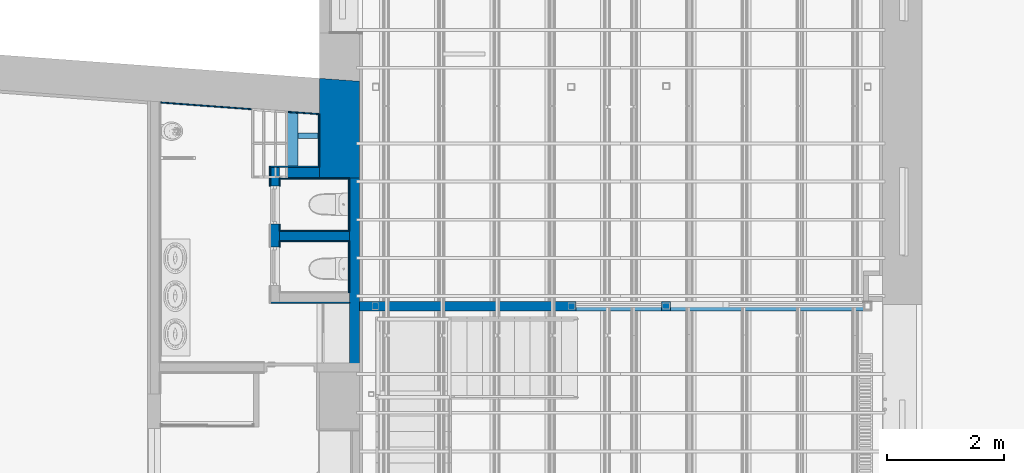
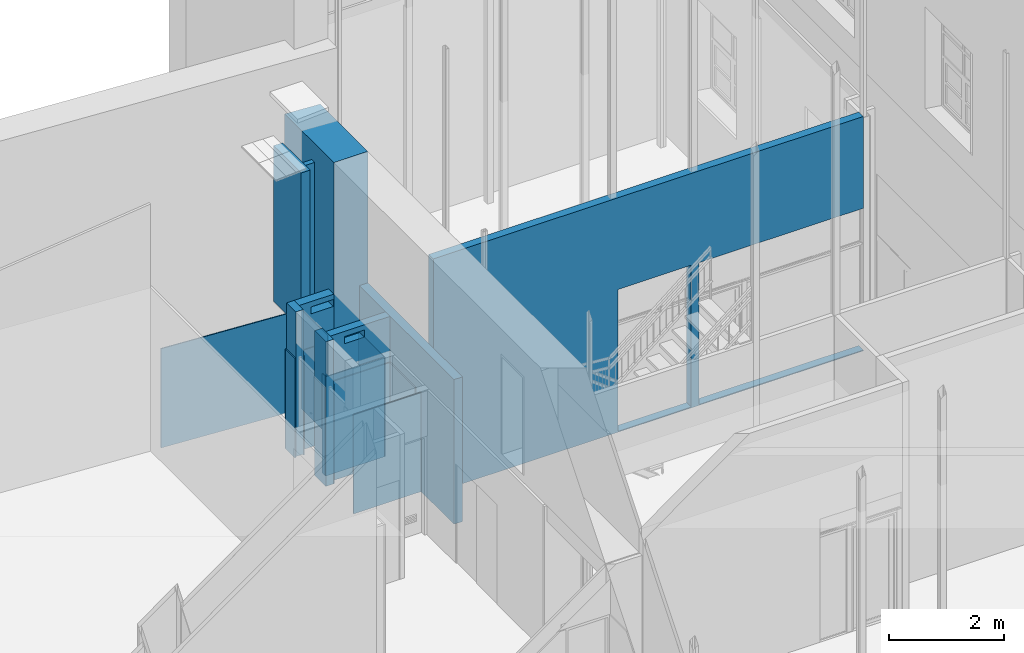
# One storey, part 39 of 75: 22 walls, 4 openings.
"""IFC2X3 building model written with IfcOpenShell, lengths in metres."""

from ifc_helpers import new_model, entity, si_unit, converted_unit, derived_unit, direction, frame, frame_2d, origin, place, context, subcontext, project, spatial, polyline, rectangle, outline, extrude, material, layer, layer_set, layer_usage, type_object, element, save


model = new_model("IFC2X3")

# Units and contexts
model_context = context("Model", 3, precision=1e-05, world=origin(), true_north=direction((6.12303176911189e-17, 1.0)))
body_context = subcontext(model_context, "Body", "Model", "MODEL_VIEW")
ifc_project = project(units=[si_unit("LENGTHUNIT", "METRE"), si_unit("AREAUNIT", "SQUARE_METRE"), si_unit("VOLUMEUNIT", "CUBIC_METRE"), converted_unit("PLANEANGLEUNIT", "DEGREE", entity("IfcRatioMeasure", 0.0174532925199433), si_unit("PLANEANGLEUNIT", "RADIAN"), dimensions=[0, 0, 0, 0, 0, 0, 0]), si_unit("MASSUNIT", "GRAM", prefix="KILO"), derived_unit("MASSDENSITYUNIT", [(si_unit("MASSUNIT", "GRAM", prefix="KILO"), 1), (si_unit("LENGTHUNIT", "METRE"), -3)]), derived_unit("MOMENTOFINERTIAUNIT", [(si_unit("LENGTHUNIT", "METRE"), 4)]), si_unit("TIMEUNIT", "SECOND"), si_unit("FREQUENCYUNIT", "HERTZ"), si_unit("THERMODYNAMICTEMPERATUREUNIT", "DEGREE_CELSIUS"), derived_unit("THERMALTRANSMITTANCEUNIT", [(si_unit("MASSUNIT", "GRAM", prefix="KILO"), 1), (si_unit("THERMODYNAMICTEMPERATUREUNIT", "KELVIN"), -1), (si_unit("TIMEUNIT", "SECOND"), -3)]), derived_unit("VOLUMETRICFLOWRATEUNIT", [(si_unit("LENGTHUNIT", "METRE"), 3), (si_unit("TIMEUNIT", "SECOND"), -1)]), si_unit("ELECTRICCURRENTUNIT", "AMPERE"), si_unit("ELECTRICVOLTAGEUNIT", "VOLT"), si_unit("POWERUNIT", "WATT"), si_unit("FORCEUNIT", "NEWTON", prefix="KILO"), si_unit("ILLUMINANCEUNIT", "LUX"), si_unit("LUMINOUSFLUXUNIT", "LUMEN"), si_unit("LUMINOUSINTENSITYUNIT", "CANDELA"), derived_unit("USERDEFINED", [(si_unit("MASSUNIT", "GRAM", prefix="KILO"), -1), (si_unit("LENGTHUNIT", "METRE"), -2), (si_unit("TIMEUNIT", "SECOND"), 3), (si_unit("LUMINOUSFLUXUNIT", "LUMEN"), 1)]), derived_unit("LINEARVELOCITYUNIT", [(si_unit("LENGTHUNIT", "METRE"), 1), (si_unit("TIMEUNIT", "SECOND"), -1)]), si_unit("PRESSUREUNIT", "PASCAL"), derived_unit("USERDEFINED", [(si_unit("LENGTHUNIT", "METRE"), -2), (si_unit("MASSUNIT", "GRAM", prefix="KILO"), 1), (si_unit("TIMEUNIT", "SECOND"), -2)]), derived_unit("LINEARFORCEUNIT", [(si_unit("MASSUNIT", "GRAM", prefix="KILO"), 1), (si_unit("LENGTHUNIT", "METRE"), 1), (si_unit("TIMEUNIT", "SECOND"), -2), (si_unit("LENGTHUNIT", "METRE"), -1)]), derived_unit("PLANARFORCEUNIT", [(si_unit("MASSUNIT", "GRAM", prefix="KILO"), 1), (si_unit("LENGTHUNIT", "METRE"), 1), (si_unit("TIMEUNIT", "SECOND"), -2), (si_unit("LENGTHUNIT", "METRE"), -2)])], contexts=[model_context])

# Site, building, storey
site_placement = place(None, origin())
site = spatial("IfcSite", under=ifc_project, at=site_placement, Name="Superficie", CompositionType="ELEMENT")
building_placement = place(site_placement, origin())
building = spatial("IfcBuilding", under=site, at=building_placement, Name="Telegestiones", CompositionType="ELEMENT")
storey_placement = place(building_placement, origin())
storey = spatial("IfcBuildingStorey", under=building, at=storey_placement, Name="Nivel 0_NPT", CompositionType="ELEMENT", Elevation=0.0)

# Walls
ifc_material_1 = material(Name="Muro por defecto")
ifc_layer_1 = layer(ifc_material_1, 0.15)
ifc_layer_set_1 = layer_set([ifc_layer_1], Name="Muro básico:ARQ-MU-IN-15-Gen")
ifc_layer_usage_1 = layer_usage(ifc_layer_set_1, "AXIS2", "POSITIVE", -0.075)
wall_type_1 = type_object("IfcWallType", Name="Muro básico:ARQ-MU-IN-15-Gen", PredefinedType="STANDARD", material=ifc_layer_set_1)
wall_1_placement = place(storey_placement, frame((4.58981262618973, 8.48360722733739, 0.0), z_axis=(0.0, 0.0, 1.0), x_axis=(0.0, 1.0, 0.0)))
element("IfcWallStandardCase", 1, at=wall_1_placement, inside=storey, type_object=wall_type_1, material=ifc_layer_usage_1, Name="Muro básico:ARQ-MU-IN-15-Gen", ObjectType="Muro básico:ARQ-MU-IN-15-Gen", context=body_context, shape_type="SweptSolid", body=[
    extrude(rectangle(XDim=0.319999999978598, YDim=0.149999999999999, at=frame_2d((0.159999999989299, 1.38777878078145e-17), x_axis=(-1.0, 0.0))), origin(), (0.0, 0.0, 1.0), 3.06),
])
ifc_layer_usage_2 = layer_usage(ifc_layer_set_1, "AXIS2", "POSITIVE", -0.075)
wall_2_placement = place(storey_placement, frame((4.58995224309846, 7.44324357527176, 0.0), z_axis=(0.0, 0.0, 1.0), x_axis=(0.0, 1.0, 0.0)))
element("IfcWallStandardCase", 2, at=wall_2_placement, inside=storey, type_object=wall_type_1, material=ifc_layer_usage_2, Name="Muro básico:ARQ-MU-IN-15-Gen", ObjectType="Muro básico:ARQ-MU-IN-15-Gen", context=body_context, shape_type="SweptSolid", body=[
    extrude(rectangle(XDim=0.390363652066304, YDim=0.149999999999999, at=frame_2d((0.195181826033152, 0.0), x_axis=(-1.0, 0.0))), origin(), (0.0, 0.0, 1.0), 3.06),
])
ifc_layer_2 = layer(ifc_material_1, 0.17)
ifc_layer_set_2 = layer_set([ifc_layer_2], Name="Muro básico:ARQ-MU-IN-17-Gen")
ifc_layer_usage_3 = layer_usage(ifc_layer_set_2, "AXIS2", "POSITIVE", -0.085)
wall_type_2 = type_object("IfcWallType", Name="Muro básico:ARQ-MU-IN-17-Gen", PredefinedType="STANDARD", material=ifc_layer_set_2)
wall_3_placement = place(storey_placement, frame((5.9492897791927, 8.62360722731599, 0.0), z_axis=(0.0, 0.0, 1.0), x_axis=(0.0, -1.0, 0.0)))
element("IfcWallStandardCase", 3, at=wall_3_placement, inside=storey, type_object=wall_type_2, material=ifc_layer_usage_3, Name="Muro básico:ARQ-MU-IN-17-Gen", ObjectType="Muro básico:ARQ-MU-IN-17-Gen", context=body_context, shape_type="SweptSolid", body=[
    extrude(rectangle(XDim=3.28, YDim=0.17, at=frame_2d((1.64, -1.11022302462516e-16), x_axis=(-1.0, 0.0))), origin(), (0.0, 0.0, 1.0), 3.06),
])
ifc_layer_3 = layer(ifc_material_1, 0.68)
ifc_layer_set_3 = layer_set([ifc_layer_3], Name="Muro básico:ARQ-MU-IN-68-Gen")
ifc_layer_usage_4 = layer_usage(ifc_layer_set_3, "AXIS2", "NEGATIVE", 0.34)
wall_type_3 = type_object("IfcWallType", Name="Muro básico:ARQ-MU-IN-68-Gen", PredefinedType="STANDARD", material=ifc_layer_set_3)
wall_4_placement = place(storey_placement, frame((5.6942897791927, 8.62360722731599, -0.0199999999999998), z_axis=(0.0, 0.0, 1.0), x_axis=(0.0, 1.0, 0.0)))
element("IfcWallStandardCase", 4, at=wall_4_placement, inside=storey, type_object=wall_type_3, material=ifc_layer_usage_4, Name="Muro básico:ARQ-MU-IN-68-Gen", ObjectType="Muro básico:ARQ-MU-IN-68-Gen", context=body_context, shape_type="SweptSolid", body=[
    extrude(outline(polyline([(1.65143086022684, -0.340000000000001), (1.70121043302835, 0.339999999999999), (1.09960487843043, 0.339999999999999), (0.0, 0.34), (0.0, -0.340000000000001), (1.04982530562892, -0.340000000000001), (1.65143086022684, -0.340000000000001)])), origin(), (0.0, 0.0, 1.0), 5.86),
])

# Wall, opening
ifc_layer_4 = layer(ifc_material_1, 0.18)
ifc_layer_set_4 = layer_set([ifc_layer_4], Name="Muro básico:ARQ-MU-IN-18-Gen")
ifc_layer_usage_5 = layer_usage(ifc_layer_set_4, "AXIS2", "POSITIVE", -0.09)
wall_type_4 = type_object("IfcWallType", Name="Muro básico:ARQ-MU-IN-18-Gen", PredefinedType="STANDARD", material=ifc_layer_set_4)
wall_5_placement = place(storey_placement, frame((5.3542897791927, 8.71360722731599, 0.0), z_axis=(0.0, 0.0, 1.0), x_axis=(-1.0, 0.0, 0.0)))
wall_5 = element("IfcWallStandardCase", 5, at=wall_5_placement, inside=storey, type_object=wall_type_4, material=ifc_layer_usage_5, Name="Muro básico:ARQ-MU-IN-18-Gen", ObjectType="Muro básico:ARQ-MU-IN-18-Gen", context=body_context, shape_type="SweptSolid", body=[
    extrude(rectangle(XDim=0.689477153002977, YDim=0.18, at=frame_2d((0.344738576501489, 0.0), x_axis=(-1.0, 0.0))), origin(), (0.0, 0.0, 1.0), 3.06),
])
opening_1_placement = place(wall_5_placement, origin())
element("IfcOpeningElement", 6, at=opening_1_placement, cuts=wall_5, Name="Muro básico:ARQ-MU-IN-18-Gen", ObjectType="Opening", context=body_context, shape_type="SweptSolid", body=[
    extrude(rectangle(XDim=0.15, YDim=0.450000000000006, at=frame_2d((0.0, 2.70616862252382e-16), x_axis=(0.0, 1.0))), frame((0.234999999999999, 0.0900000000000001, 2.875), z_axis=(0.0, -1.0, 0.0), x_axis=(-1.0, 0.0, 0.0)), (0.0, 0.0, 1.0), 0.18),
])

# Wall
ifc_layer_usage_6 = layer_usage(ifc_layer_set_4, "AXIS2", "NEGATIVE", 0.09)
wall_6_placement = place(storey_placement, frame((4.8942897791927, 8.80360722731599, 2.412), z_axis=(0.0, 0.0, 1.0), x_axis=(0.0, 1.0, 0.0)))
element("IfcWallStandardCase", 7, at=wall_6_placement, inside=storey, type_object=wall_type_4, material=ifc_layer_usage_6, Name="Muro básico:ARQ-MU-IN-18-Gen", ObjectType="Muro básico:ARQ-MU-IN-18-Gen", context=body_context, shape_type="SweptSolid", body=[
    extrude(outline(polyline([(0.946690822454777, -0.0900000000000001), (0.959867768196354, 0.0899999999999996), (0.0, 0.0899999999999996), (0.0, -0.0900000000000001), (0.490000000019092, -0.0900000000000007), (0.590000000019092, -0.0900000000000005), (0.946690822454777, -0.0900000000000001)])), origin(), (0.0, 0.0, 1.0), 3.2926831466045),
])

# Wall, opening
ifc_layer_5 = layer(ifc_material_1, 0.16)
ifc_layer_set_5 = layer_set([ifc_layer_5], Name="Muro básico:ARQ-MU-IN-16-Gen")
ifc_layer_usage_7 = layer_usage(ifc_layer_set_5, "AXIS2", "POSITIVE", -0.08)
wall_type_5 = type_object("IfcWallType", Name="Muro básico:ARQ-MU-IN-16-Gen", PredefinedType="STANDARD", material=ifc_layer_set_5)
wall_7_placement = place(storey_placement, frame((5.8642897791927, 7.63429920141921, 0.0), z_axis=(0.0, 0.0, 1.0), x_axis=(-1.0, 0.0, 0.0)))
wall_7 = element("IfcWallStandardCase", 8, at=wall_7_placement, inside=storey, type_object=wall_type_5, material=ifc_layer_usage_7, Name="Muro básico:ARQ-MU-IN-16-Gen", ObjectType="Muro básico:ARQ-MU-IN-16-Gen", context=body_context, shape_type="SweptSolid", body=[
    extrude(rectangle(XDim=1.19933753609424, YDim=0.16, at=frame_2d((0.59966876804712, -1.38777878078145e-16), x_axis=(-1.0, 0.0))), origin(), (0.0, 0.0, 1.0), 3.06),
])
opening_2_placement = place(wall_7_placement, origin())
element("IfcOpeningElement", 9, at=opening_2_placement, cuts=wall_7, Name="Muro básico:ARQ-MU-IN-16-Gen", ObjectType="Opening", context=body_context, shape_type="SweptSolid", body=[
    extrude(rectangle(XDim=0.15, YDim=0.392999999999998, at=frame_2d((-5.41233724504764e-16, 2.70616862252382e-16), x_axis=(0.0, 1.0))), frame((0.713499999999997, 0.0799999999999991, 2.875), z_axis=(0.0, -1.0, 0.0), x_axis=(-1.0, 0.0, 0.0)), (0.0, 0.0, 1.0), 0.16),
])

# Wall, openings
ifc_material_2 = material(Name="Placa yeso entera")
ifc_layer_6 = layer(ifc_material_2, 0.015)
ifc_layer_7 = layer(ifc_material_2, 0.015)
ifc_material_3 = material(Name="Estructura de Hierro Galvanizado")
ifc_layer_8 = layer(ifc_material_3, 0.1)
ifc_layer_9 = layer(ifc_material_2, 0.015)
ifc_layer_10 = layer(ifc_material_2, 0.015)
ifc_layer_set_6 = layer_set([ifc_layer_6, ifc_layer_7, ifc_layer_8, ifc_layer_9, ifc_layer_10], Name="Muro básico:ARQ-MU-IN-16-Ye-T1")
ifc_layer_usage_8 = layer_usage(ifc_layer_set_6, "AXIS2", "NEGATIVE", 0.08)
wall_type_6 = type_object("IfcWallType", Name="Muro básico:ARQ-MU-IN-16-Ye-T1", PredefinedType="STANDARD", material=ifc_layer_set_6)
wall_8_placement = place(storey_placement, frame((6.0342897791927, 6.43560722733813, -0.0199999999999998)))
wall_8 = element("IfcWallStandardCase", 10, at=wall_8_placement, inside=storey, type_object=wall_type_6, material=ifc_layer_usage_8, Name="Muro básico:ARQ-MU-IN-16-Ye-T1", ObjectType="Muro básico:ARQ-MU-IN-16-Ye-T1", context=body_context, shape_type="SweptSolid", body=[
    extrude(rectangle(XDim=8.60652284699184, YDim=0.16, at=frame_2d((4.30326142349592, 1.66533453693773e-16), x_axis=(-1.0, 0.0))), origin(), (0.0, 0.0, 1.0), 4.96),
])
opening_3_placement = place(wall_8_placement, origin())
element("IfcOpeningElement", 11, at=opening_3_placement, cuts=wall_8, Name="Muro básico:ARQ-MU-IN-16-Ye-T1", ObjectType="Opening", context=body_context, shape_type="SweptSolid", body=[
    extrude(rectangle(XDim=3.0, YDim=1.46399960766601, at=frame_2d((-5.55111512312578e-16, 0.0), x_axis=(0.0, 1.0))), frame((4.42952288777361, -0.2324, 1.52), z_axis=(0.0, 1.0, 0.0), x_axis=(-1.0, 0.0, 0.0)), (0.0, 0.0, 1.0), 0.4648),
])
opening_4_placement = place(wall_8_placement, origin())
element("IfcOpeningElement", 12, at=opening_4_placement, cuts=wall_8, Name="Muro básico:ARQ-MU-IN-16-Ye-T1", ObjectType="Opening", context=body_context, shape_type="SweptSolid", body=[
    extrude(rectangle(XDim=3.0, YDim=3.29399977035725, at=frame_2d((0.0, -1.11022302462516e-15), x_axis=(1.0, 0.0))), frame((6.95952296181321, -0.2324, 1.52), z_axis=(0.0, 1.0, 0.0), x_axis=(0.0, 0.0, 1.0)), (0.0, 0.0, 1.0), 0.4648),
])

# Walls
ifc_material_4 = material(Name="Hormigón, Moldeado in situ, gris")
ifc_layer_11 = layer(ifc_material_4, 0.01)
ifc_material_5 = material(Name="Ceramica - Ferrum - Blanco")
ifc_layer_12 = layer(ifc_material_5, 0.01)
ifc_layer_set_7 = layer_set([ifc_layer_11, ifc_layer_12], Name="Muro básico:ARQ-RE-IN-2-Cer")
ifc_layer_usage_9 = layer_usage(ifc_layer_set_7, "AXIS2", "POSITIVE", -0.01)
wall_type_7 = type_object("IfcWallType", Name="Muro básico:ARQ-RE-IN-2-Cer", PredefinedType="STANDARD", material=ifc_layer_set_7)
wall_9_placement = place(storey_placement, frame((5.35501987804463, 9.71313189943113, -0.0200000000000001), z_axis=(0.0, 0.0, 1.0), x_axis=(-0.997331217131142, 0.0730098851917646, 0.0)))
element("IfcWallStandardCase", 13, at=wall_9_placement, inside=storey, type_object=wall_type_7, material=ifc_layer_usage_9, Name="Muro básico:ARQ-RE-IN-2-Cer", ObjectType="Muro básico:ARQ-RE-IN-2-Cer", context=body_context, shape_type="SweptSolid", body=[
    extrude(outline(polyline([(2.72561733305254, -0.00999999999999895), (2.72415322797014, 0.0100000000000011), (0.0200535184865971, 0.0100000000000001), (0.0, 0.0100000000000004), (0.00146410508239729, -0.00999999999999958), (2.72561733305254, -0.00999999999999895)])), origin(), (0.0, 0.0, 1.0), 2.1),
])
ifc_layer_usage_10 = layer_usage(ifc_layer_set_7, "AXIS2", "NEGATIVE", 0.01)
wall_10_placement = place(storey_placement, frame((5.34428977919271, 9.70462269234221, -0.0200000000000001), z_axis=(0.0, 0.0, 1.0), x_axis=(0.0, -1.0, 0.0)))
element("IfcWallStandardCase", 14, at=wall_10_placement, inside=storey, type_object=wall_type_7, material=ifc_layer_usage_10, Name="Muro básico:ARQ-RE-IN-2-Cer", ObjectType="Muro básico:ARQ-RE-IN-2-Cer", context=body_context, shape_type="SweptSolid", body=[
    extrude(outline(polyline([(0.901015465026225, -0.00999999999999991), (0.901015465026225, 0.00999999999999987), (0.00146410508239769, 0.00999999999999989), (0.0, -0.00999999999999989), (0.881015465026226, -0.00999999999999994), (0.901015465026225, -0.00999999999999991)])), origin(), (0.0, 0.0, 1.0), 2.1),
])
ifc_layer_usage_11 = layer_usage(ifc_layer_set_7, "AXIS2", "NEGATIVE", 0.01)
wall_11_placement = place(storey_placement, frame((5.33428977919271, 8.81360722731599, -0.0200000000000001), z_axis=(0.0, 0.0, 1.0), x_axis=(-1.0, 0.0, 0.0)))
element("IfcWallStandardCase", 15, at=wall_11_placement, inside=storey, type_object=wall_type_7, material=ifc_layer_usage_11, Name="Muro básico:ARQ-RE-IN-2-Cer", ObjectType="Muro básico:ARQ-RE-IN-2-Cer", context=body_context, shape_type="SweptSolid", body=[
    extrude(rectangle(XDim=0.839477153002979, YDim=0.0199999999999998, at=frame_2d((0.41973857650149, 2.60208521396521e-17), x_axis=(-1.0, 0.0))), origin(), (0.0, 0.0, 1.0), 2.1),
])
ifc_layer_usage_12 = layer_usage(ifc_layer_set_7, "AXIS2", "NEGATIVE", 0.01)
wall_12_placement = place(storey_placement, frame((4.50481262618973, 8.80360722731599, -0.0200000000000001), z_axis=(0.0, 0.0, 1.0), x_axis=(0.0, -1.0, 0.0)))
element("IfcWallStandardCase", 16, at=wall_12_placement, inside=storey, type_object=wall_type_7, material=ifc_layer_usage_12, Name="Muro básico:ARQ-RE-IN-2-Cer", ObjectType="Muro básico:ARQ-RE-IN-2-Cer", context=body_context, shape_type="SweptSolid", body=[
    extrude(rectangle(XDim=0.319999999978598, YDim=0.0199999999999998, at=frame_2d((0.159999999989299, 0.0), x_axis=(-1.0, 0.0))), origin(), (0.0, 0.0, 1.0), 2.1),
])
ifc_layer_usage_13 = layer_usage(ifc_layer_set_7, "AXIS2", "NEGATIVE", 0.01)
wall_13_placement = place(storey_placement, frame((4.67481262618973, 8.48360722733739, -0.0200000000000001), z_axis=(0.0, 0.0, 1.0), x_axis=(0.0, 1.0, 0.0)))
element("IfcWallStandardCase", 17, at=wall_13_placement, inside=storey, type_object=wall_type_7, material=ifc_layer_usage_13, Name="Muro básico:ARQ-RE-IN-2-Cer", ObjectType="Muro básico:ARQ-RE-IN-2-Cer", context=body_context, shape_type="SweptSolid", body=[
    extrude(rectangle(XDim=0.139999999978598, YDim=0.0199999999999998, at=frame_2d((0.0699999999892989, 0.0), x_axis=(-1.0, 0.0))), origin(), (0.0, 0.0, 1.0), 2.1),
])
ifc_layer_usage_14 = layer_usage(ifc_layer_set_7, "AXIS2", "NEGATIVE", 0.01)
wall_14_placement = place(storey_placement, frame((4.68481262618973, 8.61360722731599, 0.0)))
element("IfcWallStandardCase", 18, at=wall_14_placement, inside=storey, type_object=wall_type_7, material=ifc_layer_usage_14, Name="Muro básico:ARQ-RE-IN-2-Cer", ObjectType="Muro básico:ARQ-RE-IN-2-Cer", context=body_context, shape_type="SweptSolid", body=[
    extrude(rectangle(XDim=1.17947715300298, YDim=0.0199999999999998, at=frame_2d((0.589738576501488, 0.0), x_axis=(-1.0, 0.0))), origin(), (0.0, 0.0, 1.0), 2.1),
])
ifc_layer_usage_15 = layer_usage(ifc_layer_set_7, "AXIS2", "NEGATIVE", 0.01)
wall_15_placement = place(storey_placement, frame((5.8542897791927, 8.62360722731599, 0.0), z_axis=(0.0, 0.0, 1.0), x_axis=(0.0, -1.0, 0.0)))
element("IfcWallStandardCase", 19, at=wall_15_placement, inside=storey, type_object=wall_type_7, material=ifc_layer_usage_15, Name="Muro básico:ARQ-RE-IN-2-Cer", ObjectType="Muro básico:ARQ-RE-IN-2-Cer", context=body_context, shape_type="SweptSolid", body=[
    extrude(rectangle(XDim=0.909308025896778, YDim=0.0199999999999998, at=frame_2d((0.454654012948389, 0.0), x_axis=(-1.0, 0.0))), origin(), (0.0, 0.0, 1.0), 2.1),
])
ifc_layer_usage_16 = layer_usage(ifc_layer_set_7, "AXIS2", "NEGATIVE", 0.01)
wall_16_placement = place(storey_placement, frame((5.8642897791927, 7.72429920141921, 0.0), z_axis=(0.0, 0.0, 1.0), x_axis=(-1.0, 0.0, 0.0)))
element("IfcWallStandardCase", 20, at=wall_16_placement, inside=storey, type_object=wall_type_7, material=ifc_layer_usage_16, Name="Muro básico:ARQ-RE-IN-2-Cer", ObjectType="Muro básico:ARQ-RE-IN-2-Cer", context=body_context, shape_type="SweptSolid", body=[
    extrude(rectangle(XDim=1.19933753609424, YDim=0.0199999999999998, at=frame_2d((0.59966876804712, -1.07552855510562e-16), x_axis=(-1.0, 0.0))), origin(), (0.0, 0.0, 1.0), 2.1),
])
ifc_layer_usage_17 = layer_usage(ifc_layer_set_7, "AXIS2", "NEGATIVE", 0.01)
wall_17_placement = place(storey_placement, frame((4.67495224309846, 7.73429920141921, 0.0), z_axis=(0.0, 0.0, 1.0), x_axis=(0.0, 1.0, 0.0)))
element("IfcWallStandardCase", 21, at=wall_17_placement, inside=storey, type_object=wall_type_7, material=ifc_layer_usage_17, Name="Muro básico:ARQ-RE-IN-2-Cer", ObjectType="Muro básico:ARQ-RE-IN-2-Cer", context=body_context, shape_type="SweptSolid", body=[
    extrude(rectangle(XDim=0.0993080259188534, YDim=0.0199999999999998, at=frame_2d((0.0496540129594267, 0.0), x_axis=(-1.0, 0.0))), origin(), (0.0, 0.0, 1.0), 2.1),
])
ifc_layer_usage_18 = layer_usage(ifc_layer_set_7, "AXIS2", "NEGATIVE", 0.01)
wall_18_placement = place(storey_placement, frame((4.67495224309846, 7.44324357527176, 0.0), z_axis=(0.0, 0.0, 1.0), x_axis=(0.0, 1.0, 0.0)))
element("IfcWallStandardCase", 22, at=wall_18_placement, inside=storey, type_object=wall_type_7, material=ifc_layer_usage_18, Name="Muro básico:ARQ-RE-IN-2-Cer", ObjectType="Muro básico:ARQ-RE-IN-2-Cer", context=body_context, shape_type="SweptSolid", body=[
    extrude(rectangle(XDim=0.11105562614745, YDim=0.0199999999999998, at=frame_2d((0.0555278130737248, 0.0), x_axis=(-1.0, 0.0))), origin(), (0.0, 0.0, 1.0), 2.1),
])
ifc_layer_usage_19 = layer_usage(ifc_layer_set_7, "AXIS2", "NEGATIVE", 0.01)
wall_19_placement = place(storey_placement, frame((4.68495224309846, 7.54429920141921, 0.0)))
element("IfcWallStandardCase", 23, at=wall_19_placement, inside=storey, type_object=wall_type_7, material=ifc_layer_usage_19, Name="Muro básico:ARQ-RE-IN-2-Cer", ObjectType="Muro básico:ARQ-RE-IN-2-Cer", context=body_context, shape_type="SweptSolid", body=[
    extrude(rectangle(XDim=1.17933753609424, YDim=0.0199999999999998, at=frame_2d((0.58966876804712, -3.64291929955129e-17), x_axis=(-1.0, 0.0))), origin(), (0.0, 0.0, 1.0), 2.1),
])
ifc_layer_usage_20 = layer_usage(ifc_layer_set_7, "AXIS2", "NEGATIVE", 0.01)
wall_20_placement = place(storey_placement, frame((5.8542897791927, 7.53429920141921, 0.0), z_axis=(0.0, 0.0, 1.0), x_axis=(0.0, -1.0, 0.0)))
element("IfcWallStandardCase", 24, at=wall_20_placement, inside=storey, type_object=wall_type_7, material=ifc_layer_usage_20, Name="Muro básico:ARQ-RE-IN-2-Cer", ObjectType="Muro básico:ARQ-RE-IN-2-Cer", context=body_context, shape_type="SweptSolid", body=[
    extrude(rectangle(XDim=0.870691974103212, YDim=0.0199999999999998, at=frame_2d((0.435345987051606, -1.12757025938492e-17), x_axis=(-1.0, 0.0))), origin(), (0.0, 0.0, 1.0), 2.1),
])
ifc_layer_usage_21 = layer_usage(ifc_layer_set_7, "AXIS2", "NEGATIVE", 0.01)
wall_21_placement = place(storey_placement, frame((4.51481262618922, 6.493607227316, 0.0)))
element("IfcWallStandardCase", 25, at=wall_21_placement, inside=storey, type_object=wall_type_7, material=ifc_layer_usage_21, Name="Muro básico:ARQ-RE-IN-2-Cer", ObjectType="Muro básico:ARQ-RE-IN-2-Cer", context=body_context, shape_type="SweptSolid", body=[
    extrude(rectangle(XDim=1.34947715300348, YDim=0.0199999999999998, at=frame_2d((0.674738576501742, 0.0), x_axis=(-1.0, 0.0))), origin(), (0.0, 0.0, 1.0), 2.1),
])
ifc_layer_13 = layer(ifc_material_2, 0.015)
ifc_layer_14 = layer(ifc_material_3, 0.07)
ifc_layer_15 = layer(ifc_material_2, 0.015)
ifc_layer_set_8 = layer_set([ifc_layer_13, ifc_layer_14, ifc_layer_15], Name="Muro básico:ARQ-MU-IN-10-Ye-T8")
ifc_layer_usage_22 = layer_usage(ifc_layer_set_8, "AXIS2", "NEGATIVE", 0.05)
wall_type_8 = type_object("IfcWallType", Name="Muro básico:ARQ-MU-IN-10-Ye-T8", PredefinedType="STANDARD", material=ifc_layer_set_8)
wall_22_placement = place(storey_placement, frame((4.9842897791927, 9.34360722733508, 2.412)))
element("IfcWallStandardCase", 26, at=wall_22_placement, inside=storey, type_object=wall_type_8, material=ifc_layer_usage_22, Name="Muro básico:ARQ-MU-IN-10-Ye-T8", ObjectType="Muro básico:ARQ-MU-IN-10-Ye-T8", context=body_context, shape_type="SweptSolid", body=[
    extrude(rectangle(XDim=0.370000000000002, YDim=0.100000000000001, at=frame_2d((0.185000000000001, -1.11022302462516e-16), x_axis=(-1.0, 0.0))), origin(), (0.0, 0.0, 1.0), 3.028),
])

save(model, "model.ifc")
